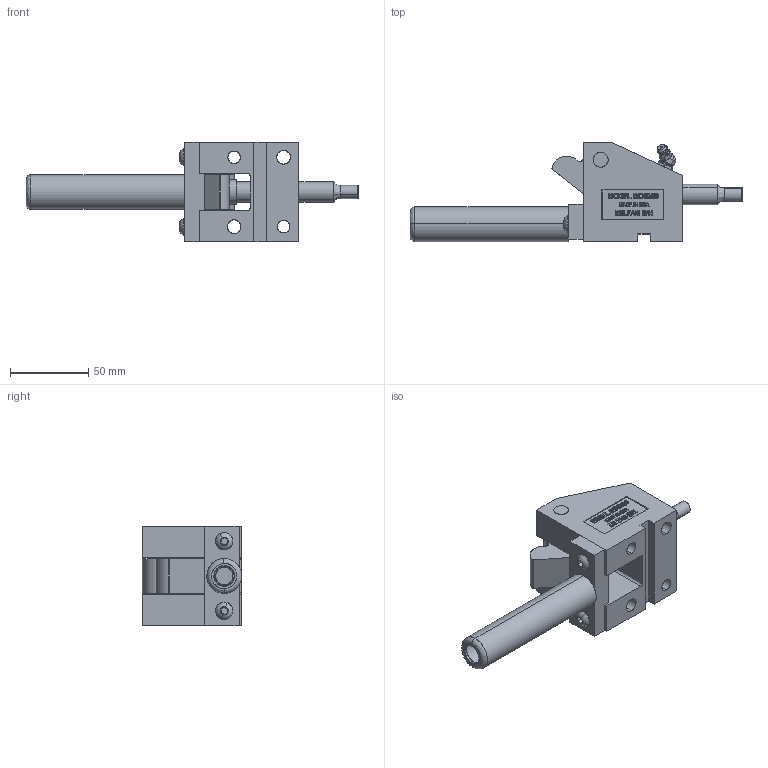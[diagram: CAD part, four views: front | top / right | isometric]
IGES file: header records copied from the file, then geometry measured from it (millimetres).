
Start section: SolidWorks IGES file using analytic representation for surfaces
Global section: file name: Y:\JIM SOLIDWORKS\ENGDESIGN-W-SOLIDWORKS\PROJECTS\MOS500-C\MOS500-C.IGS; native system: SolidWorks 2006 by SolidWorks Corporation; preprocessor: SolidWorks 2006 by SolidWorks Corporation; author: Jim; date: 081226.151646; units: inch
Bounding box: 212.6 x 63.5 x 63.5 mm (x, y, z)
Surface area: 65610.9 mm2 (no closed solid volume)
Topology: 0 solids, 0 shells, 592 faces, 7739 edges, 7737 vertices
Faces by surface type: bspline 473, revolution 119
